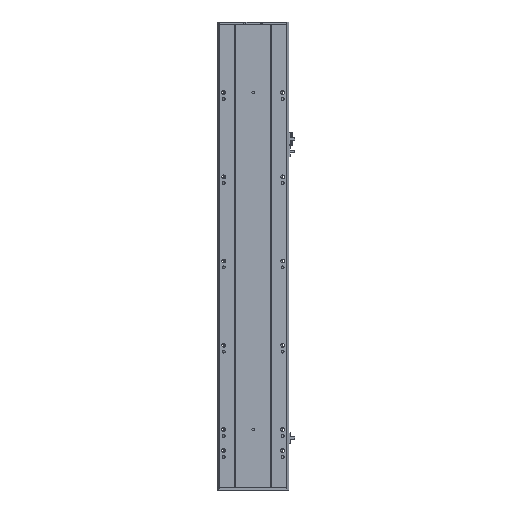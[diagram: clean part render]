
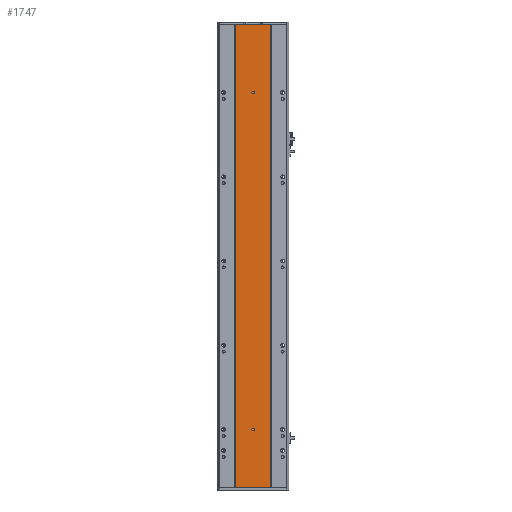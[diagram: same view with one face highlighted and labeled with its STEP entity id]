
A CAD part, front view. The second image highlights one B-rep face of the part: STEP entity #1747.
In plain terms, the highlighted planar face has unit normal (0, -1, 0).
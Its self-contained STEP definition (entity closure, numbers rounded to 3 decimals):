
#818 = VERTEX_POINT ( 'NONE', #4823 ) ;
#1062 = AXIS2_PLACEMENT_3D ( 'NONE', #22919, #11152, #24876 ) ;
#1188 = ORIENTED_EDGE ( 'NONE', *, *, #12748, .T. ) ;
#1264 = AXIS2_PLACEMENT_3D ( 'NONE', #7972, #21705, #9933 ) ;
#1747 = ADVANCED_FACE ( 'NONE', ( #13057, #13670, #7861 ), #21701, .F. ) ;
#1783 = VERTEX_POINT ( 'NONE', #19779 ) ;
#1970 = CARTESIAN_POINT ( 'NONE',  ( 85., 2.57, 935.5 ) ) ;
#2110 = DIRECTION ( 'NONE',  ( 0., 0., 1. ) ) ;
#2174 = DIRECTION ( 'NONE',  ( 0., 1., 0. ) ) ;
#2424 = AXIS2_PLACEMENT_3D ( 'NONE', #21615, #13876, #2110 ) ;
#3101 = ORIENTED_EDGE ( 'NONE', *, *, #7346, .F. ) ;
#4595 = LINE ( 'NONE', #24388, #19631 ) ;
#4740 = DIRECTION ( 'NONE',  ( 0., 0., 1. ) ) ;
#4823 = CARTESIAN_POINT ( 'NONE',  ( 42.916, 2.57, 1101. ) ) ;
#5126 = ORIENTED_EDGE ( 'NONE', *, *, #22151, .T. ) ;
#5152 = DIRECTION ( 'NONE',  ( 0., 1., 0. ) ) ;
#5519 = VERTEX_POINT ( 'NONE', #18626 ) ;
#6353 = VERTEX_POINT ( 'NONE', #24433 ) ;
#6487 = LINE ( 'NONE', #10608, #11075 ) ;
#6619 = VERTEX_POINT ( 'NONE', #7460 ) ;
#7204 = VECTOR ( 'NONE', #23830, 1000. ) ;
#7346 = EDGE_CURVE ( 'NONE', #6353, #6619, #6487, .T. ) ;
#7460 = CARTESIAN_POINT ( 'NONE',  ( 42.916, 2.57, 0. ) ) ;
#7493 = VERTEX_POINT ( 'NONE', #18843 ) ;
#7821 = AXIS2_PLACEMENT_3D ( 'NONE', #13942, #2174, #15941 ) ;
#7861 = FACE_OUTER_BOUND ( 'NONE', #15895, .T. ) ;
#7972 = CARTESIAN_POINT ( 'NONE',  ( 85., 2.57, 138.5 ) ) ;
#8427 = CIRCLE ( 'NONE', #1264, 3. ) ;
#8919 = CIRCLE ( 'NONE', #7821, 3. ) ;
#9509 = ORIENTED_EDGE ( 'NONE', *, *, #12815, .T. ) ;
#9668 = EDGE_LOOP ( 'NONE', ( #15979, #1188 ) ) ;
#9702 = VECTOR ( 'NONE', #22062, 1000. ) ;
#9933 = DIRECTION ( 'NONE',  ( 0., 0., 1. ) ) ;
#10103 = CARTESIAN_POINT ( 'NONE',  ( 42.916, 2.57, 1101. ) ) ;
#10143 = VERTEX_POINT ( 'NONE', #14385 ) ;
#10306 = CARTESIAN_POINT ( 'NONE',  ( 42.916, 2.57, 0. ) ) ;
#10608 = CARTESIAN_POINT ( 'NONE',  ( 42.916, 2.57, 0. ) ) ;
#11012 = VERTEX_POINT ( 'NONE', #1970 ) ;
#11075 = VECTOR ( 'NONE', #22367, 1000. ) ;
#11152 = DIRECTION ( 'NONE',  ( 0., 1., 0. ) ) ;
#11917 = CIRCLE ( 'NONE', #1062, 3. ) ;
#12748 = EDGE_CURVE ( 'NONE', #7493, #10143, #8427, .T. ) ;
#12815 = EDGE_CURVE ( 'NONE', #1783, #818, #17635, .T. ) ;
#13057 = FACE_BOUND ( 'NONE', #9668, .T. ) ;
#13424 = AXIS2_PLACEMENT_3D ( 'NONE', #16918, #5152, #18875 ) ;
#13670 = FACE_BOUND ( 'NONE', #22339, .T. ) ;
#13876 = DIRECTION ( 'NONE',  ( 0., 1., 0. ) ) ;
#13942 = CARTESIAN_POINT ( 'NONE',  ( 85., 2.57, 138.5 ) ) ;
#14385 = CARTESIAN_POINT ( 'NONE',  ( 85., 2.57, 135.5 ) ) ;
#14942 = LINE ( 'NONE', #10306, #9702 ) ;
#15128 = ORIENTED_EDGE ( 'NONE', *, *, #15981, .T. ) ;
#15750 = EDGE_CURVE ( 'NONE', #10143, #7493, #8919, .T. ) ;
#15895 = EDGE_LOOP ( 'NONE', ( #9509, #19872, #3101, #15128 ) ) ;
#15941 = DIRECTION ( 'NONE',  ( 0., 0., 1. ) ) ;
#15979 = ORIENTED_EDGE ( 'NONE', *, *, #15750, .T. ) ;
#15981 = EDGE_CURVE ( 'NONE', #6353, #1783, #4595, .T. ) ;
#16623 = EDGE_CURVE ( 'NONE', #11012, #5519, #11917, .T. ) ;
#16918 = CARTESIAN_POINT ( 'NONE',  ( 85., 2.57, 938.5 ) ) ;
#17635 = LINE ( 'NONE', #10103, #7204 ) ;
#17778 = ORIENTED_EDGE ( 'NONE', *, *, #16623, .T. ) ;
#18626 = CARTESIAN_POINT ( 'NONE',  ( 85., 2.57, 941.5 ) ) ;
#18843 = CARTESIAN_POINT ( 'NONE',  ( 85., 2.57, 141.5 ) ) ;
#18875 = DIRECTION ( 'NONE',  ( 0., 0., 1. ) ) ;
#19631 = VECTOR ( 'NONE', #4740, 1000. ) ;
#19779 = CARTESIAN_POINT ( 'NONE',  ( 126.916, 2.57, 1101. ) ) ;
#19872 = ORIENTED_EDGE ( 'NONE', *, *, #24524, .F. ) ;
#20516 = CIRCLE ( 'NONE', #13424, 3. ) ;
#21615 = CARTESIAN_POINT ( 'NONE',  ( 42.916, 2.57, 0. ) ) ;
#21701 = PLANE ( 'NONE',  #2424 ) ;
#21705 = DIRECTION ( 'NONE',  ( 0., 1., 0. ) ) ;
#22062 = DIRECTION ( 'NONE',  ( 0., 0., 1. ) ) ;
#22151 = EDGE_CURVE ( 'NONE', #5519, #11012, #20516, .T. ) ;
#22339 = EDGE_LOOP ( 'NONE', ( #17778, #5126 ) ) ;
#22367 = DIRECTION ( 'NONE',  ( -1., 0., 0. ) ) ;
#22919 = CARTESIAN_POINT ( 'NONE',  ( 85., 2.57, 938.5 ) ) ;
#23830 = DIRECTION ( 'NONE',  ( -1., 0., 0. ) ) ;
#24388 = CARTESIAN_POINT ( 'NONE',  ( 126.916, 2.57, 0. ) ) ;
#24433 = CARTESIAN_POINT ( 'NONE',  ( 126.916, 2.57, 0. ) ) ;
#24524 = EDGE_CURVE ( 'NONE', #6619, #818, #14942, .T. ) ;
#24876 = DIRECTION ( 'NONE',  ( 0., 0., 1. ) ) ;
